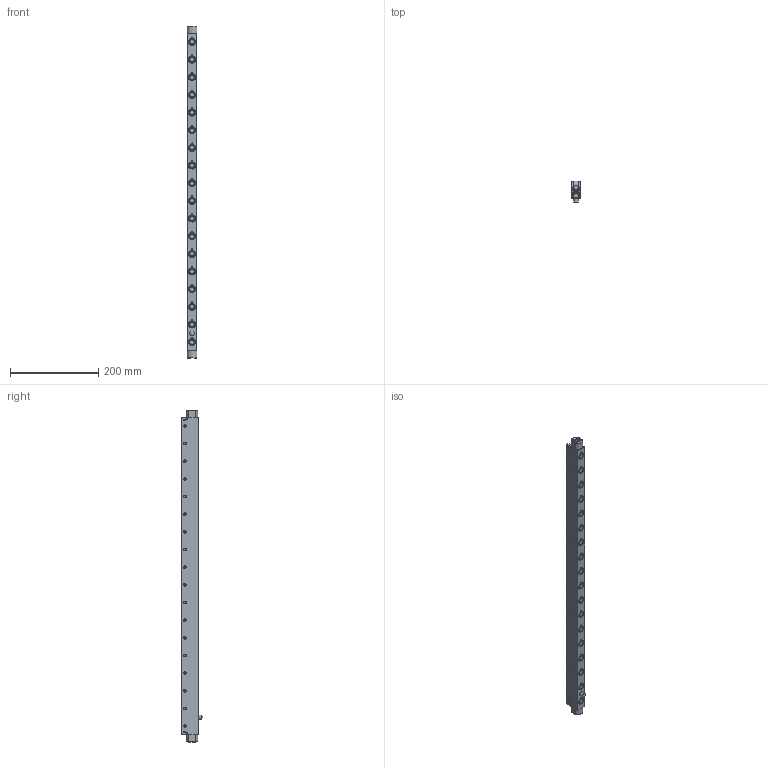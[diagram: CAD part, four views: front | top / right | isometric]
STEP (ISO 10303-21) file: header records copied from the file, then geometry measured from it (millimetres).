
FILE_DESCRIPTION(/* description */ (''),/* implementation_level */ '2;1');
FILE_NAME(/* name */ 'S:\EASCN Vault\Designs\Standard Part\DIE LIFTERS\EHR\EHR- 3D step\EHR22-C - 3D step complete serie\EHR22-18-C.stp',/* time_stamp */ '2019-09-06T13:36:39+08:00',/* author */ ('yue.yang'),/* organization */ (''),/* preprocessor_version */ 'ST-DEVELOPER v17',/* originating_system */ 'Autodesk Inventor 2019',/* authorisation */ '');
FILE_SCHEMA (('AUTOMOTIVE_DESIGN { 1 0 10303 214 3 1 1 }'));
Length unit declared in the file: millimetre
Products named in the file (1): EHR22-18-C_Shrinkwrap_1
Bounding box: 21.8 x 48.05 x 752 mm (x, y, z)
Volume: 455289.2 mm3; surface area: 178595.1 mm2
Topology: 4 solids, 4 shells, 1146 faces, 3256 edges, 2264 vertices
Faces by surface type: cylinder 383, plane 321, cone 210, torus 195, sphere 37
Full cylindrical faces by diameter (mm): 3 x10, 3.2 x8, 4 x8, 5 x72, 6 x27, 8.566 x2, 10 x3, 11 x18, 12.5 x36, 13.4 x18, 13.8 x18, 15.95 x36, 16 x51
Entity records: 42151 total; most frequent: CARTESIAN_POINT 9619, DIRECTION 7231, ORIENTED_EDGE 6460, EDGE_CURVE 3230, AXIS2_PLACEMENT_3D 3200, VERTEX_POINT 2264, CIRCLE 2053, EDGE_LOOP 1378
